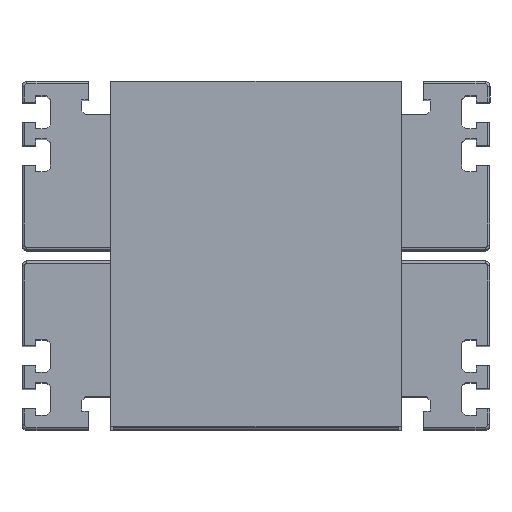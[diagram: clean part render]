
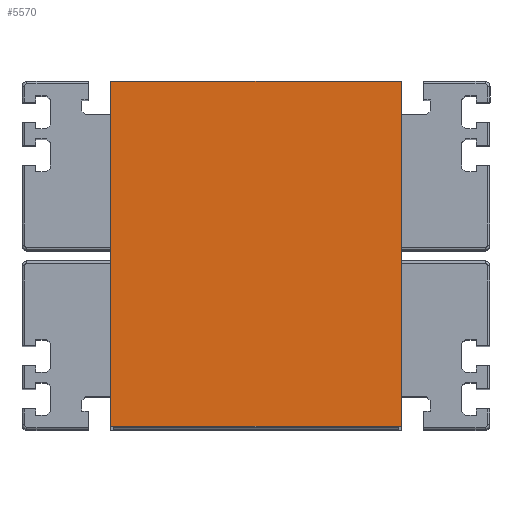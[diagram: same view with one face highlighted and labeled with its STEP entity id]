
A CAD part, top view. The second image highlights one B-rep face of the part: STEP entity #5570.
In plain terms, the highlighted planar face has unit normal (0, 0, 1).
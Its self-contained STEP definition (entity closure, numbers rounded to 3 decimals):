
#199 = EDGE_CURVE ( 'NONE', #2681, #17828, #5838, .T. ) ;
#308 = VECTOR ( 'NONE', #16378, 1000. ) ;
#1026 = CARTESIAN_POINT ( 'NONE',  ( 118., 0., 65. ) ) ;
#2081 = CARTESIAN_POINT ( 'NONE',  ( 118., 70., 65. ) ) ;
#2681 = VERTEX_POINT ( 'NONE', #9995 ) ;
#3198 = EDGE_CURVE ( 'NONE', #17828, #4462, #12458, .T. ) ;
#3450 = ORIENTED_EDGE ( 'NONE', *, *, #3198, .T. ) ;
#3608 = LINE ( 'NONE', #2081, #12691 ) ;
#4462 = VERTEX_POINT ( 'NONE', #9629 ) ;
#4563 = DIRECTION ( 'NONE',  ( 0., -1., 0. ) ) ;
#4876 = EDGE_LOOP ( 'NONE', ( #3450, #9367, #9064, #19347 ) ) ;
#5570 = ADVANCED_FACE ( 'NONE', ( #11582 ), #18902, .F. ) ;
#5838 = LINE ( 'NONE', #16673, #308 ) ;
#6817 = LINE ( 'NONE', #1026, #15716 ) ;
#7949 = CARTESIAN_POINT ( 'NONE',  ( 0., 70., 65. ) ) ;
#8167 = DIRECTION ( 'NONE',  ( 0., 0., -1. ) ) ;
#8177 = DIRECTION ( 'NONE',  ( 0., -1., 0. ) ) ;
#9064 = ORIENTED_EDGE ( 'NONE', *, *, #18128, .F. ) ;
#9367 = ORIENTED_EDGE ( 'NONE', *, *, #10464, .F. ) ;
#9629 = CARTESIAN_POINT ( 'NONE',  ( 0., 0., 65. ) ) ;
#9995 = CARTESIAN_POINT ( 'NONE',  ( 118., 140., 65. ) ) ;
#10180 = CARTESIAN_POINT ( 'NONE',  ( 118., 70., 65. ) ) ;
#10464 = EDGE_CURVE ( 'NONE', #11645, #4462, #6817, .T. ) ;
#11582 = FACE_OUTER_BOUND ( 'NONE', #4876, .T. ) ;
#11645 = VERTEX_POINT ( 'NONE', #16895 ) ;
#12036 = AXIS2_PLACEMENT_3D ( 'NONE', #10180, #8167, #14689 ) ;
#12458 = LINE ( 'NONE', #7949, #16207 ) ;
#12691 = VECTOR ( 'NONE', #8177, 1000. ) ;
#14689 = DIRECTION ( 'NONE',  ( 0., 1., 0. ) ) ;
#15019 = CARTESIAN_POINT ( 'NONE',  ( 0., 140., 65. ) ) ;
#15716 = VECTOR ( 'NONE', #17439, 1000. ) ;
#16207 = VECTOR ( 'NONE', #4563, 1000. ) ;
#16378 = DIRECTION ( 'NONE',  ( -1., 0., 0. ) ) ;
#16673 = CARTESIAN_POINT ( 'NONE',  ( 118., 140., 65. ) ) ;
#16895 = CARTESIAN_POINT ( 'NONE',  ( 118., 0., 65. ) ) ;
#17439 = DIRECTION ( 'NONE',  ( -1., 0., 0. ) ) ;
#17828 = VERTEX_POINT ( 'NONE', #15019 ) ;
#18128 = EDGE_CURVE ( 'NONE', #2681, #11645, #3608, .T. ) ;
#18902 = PLANE ( 'NONE',  #12036 ) ;
#19347 = ORIENTED_EDGE ( 'NONE', *, *, #199, .T. ) ;
